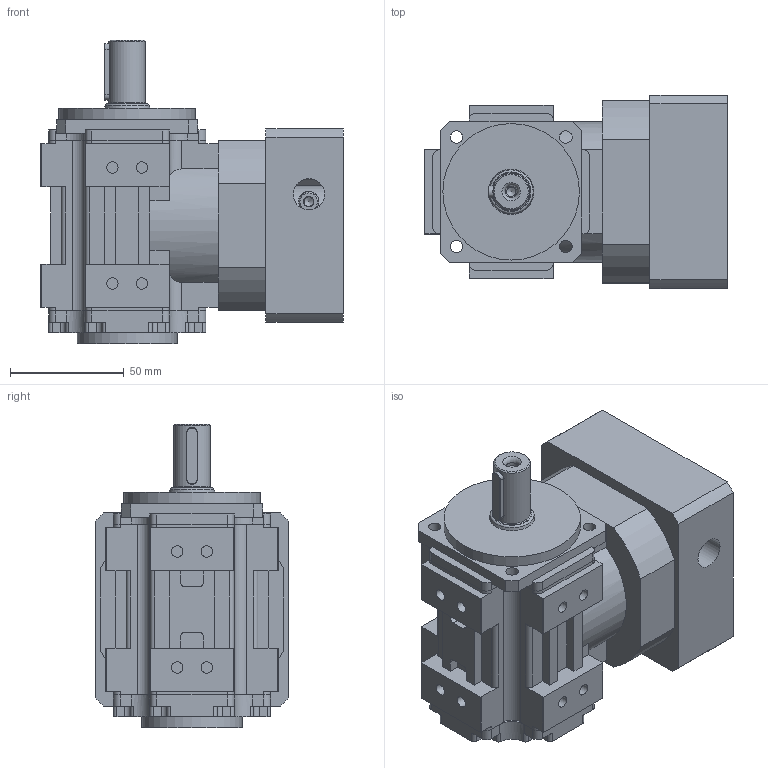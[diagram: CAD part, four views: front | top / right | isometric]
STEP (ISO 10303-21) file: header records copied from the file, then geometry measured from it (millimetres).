
FILE_DESCRIPTION(/* description */ (''),/* implementation_level */ '2;1');
FILE_NAME(/* name */ 'KRHNRMQD4RV3Y4KXF3MQUIOWDKEAOJYK2X_step214.stp',/* time_stamp */ '2024-03-20T13:27:39+01:00',/* author */ (''),/* organization */ (''),/* preprocessor_version */ 'ST-DEVELOPER v16.7',/* originating_system */ 'SIEMENS PLM Software NX 1884',/* authorisation */ '');
FILE_SCHEMA (('AUTOMOTIVE_DESIGN { 1 0 10303 214 0 1 1 1 }'));
Length unit declared in the file: millimetre
Products named in the file (1): KRHNRMQD4RV3Y4KXF3MQUIOWDKEAOJYK2X_M
Bounding box: 133 x 85 x 133.5 mm (x, y, z)
Volume: 694046.5 mm3; surface area: 110011.5 mm2
Topology: 9 solids, 9 shells, 387 faces, 981 edges, 645 vertices
Faces by surface type: plane 214, cylinder 149, cone 19, torus 5
Full cylindrical faces by diameter (mm): 4.2 x1, 5 x17, 5.3 x1, 5.5 x4, 6 x4, 8.72 x1, 9 x1, 9.52 x1, 13 x1, 13.75 x1, 16 x1, 19 x1, 25 x2, 44 x1, 52 x1, 60 x1, 68 x2, 73 x1
Entity records: 11554 total; most frequent: CARTESIAN_POINT 2114, DIRECTION 1996, ORIENTED_EDGE 1832, EDGE_CURVE 916, AXIS2_PLACEMENT_3D 712, VERTEX_POINT 638, LINE 572, VECTOR 572
